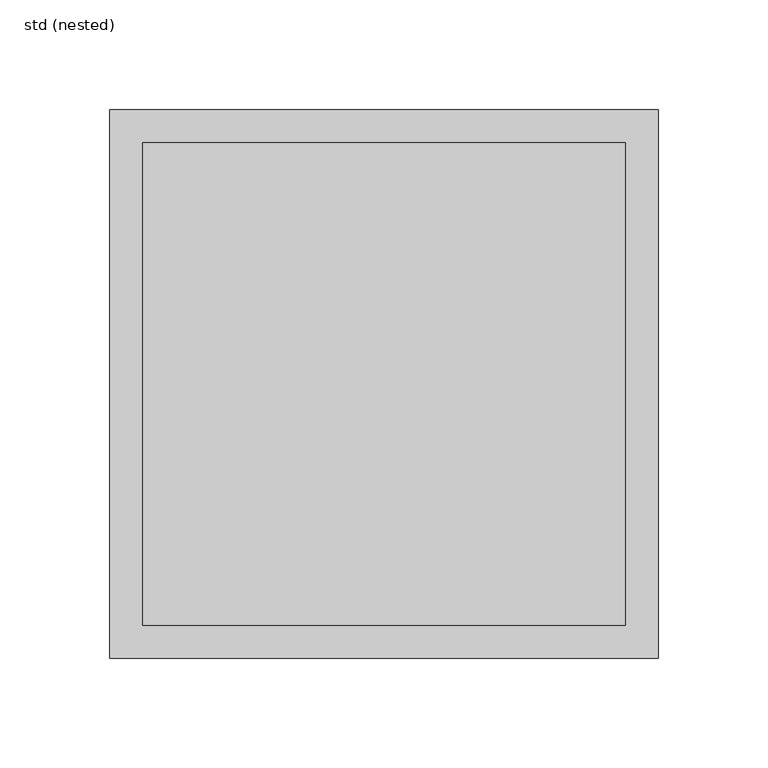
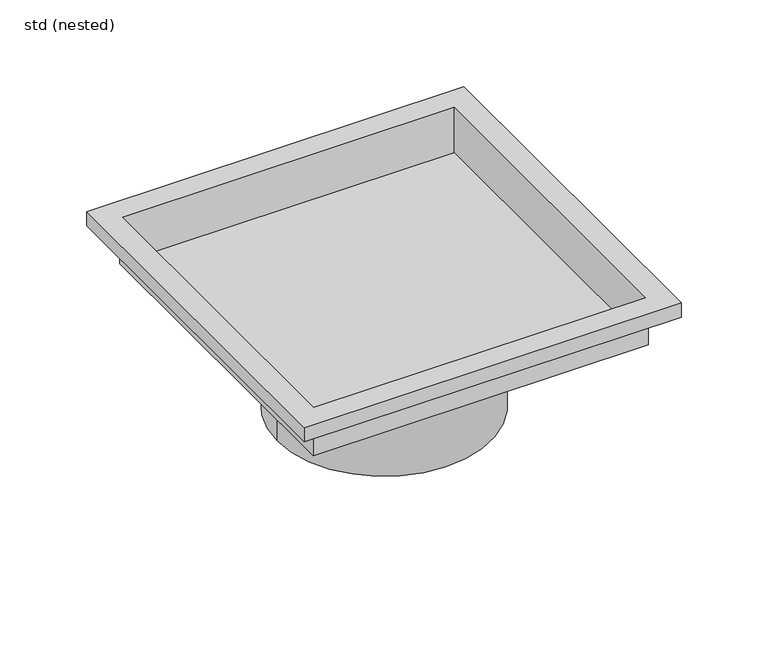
"""IFC4 building model written with IfcOpenShell, lengths in millimetres: sanitary terminal geometry, ZZZ_do not use_PF_ST_UN_telescopic gully top_ACO : std (nested)."""

from ifc_helpers import new_model, si_unit, frame, origin, place, context, project, spatial, polyline, circle_curve, faceted_brep, source, transform, mapped, element, save
from ifc_brep_helpers import plane_surface, cylinder_surface, revolved_surface, advanced_brep


def std_nested_4e44c4c3(model_context):
    return source(origin(), model_context, "Body", "SolidModel", [
        advanced_brep(
        [(-71.0, 0.0, -104.0), (71.0, 0.0, -104.0), (71.0, 0.0, -45.5), (-71.0, 0.0, -45.5), (-78.5, 0.0, -33.0), (78.5, 0.0, -33.0)],
        [
            (0, 1, circle_curve(frame((0.0, 0.0, -104.0), z_axis=(0.0, 0.0, -1.0), x_axis=(1.0, 0.0, 0.0)), 71.0)),
            (1, 0, circle_curve(frame((0.0, 0.0, -104.0), z_axis=(0.0, 0.0, -1.0), x_axis=(1.0, 0.0, 0.0)), 71.0)),
            (1, 2),
            (2, 3, circle_curve(frame((0.0, 0.0, -45.5), z_axis=(0.0, 0.0, -1.0), x_axis=(1.0, 0.0, 0.0)), 71.0)),
            (3, 0),
            (3, 2, circle_curve(frame((0.0, 0.0, -45.5), z_axis=(0.0, 0.0, -1.0), x_axis=(1.0, 0.0, 0.0)), 71.0)),
            (4, 5, circle_curve(frame((0.0, 0.0, -33.0), z_axis=(0.0, 0.0, 1.0), x_axis=(1.0, 0.0, 0.0)), 78.5)),
            (5, 4, circle_curve(frame((0.0, 0.0, -33.0), z_axis=(0.0, 0.0, 1.0), x_axis=(-1.0, 0.0, 0.0)), 78.5)),
            (4, 3),
            (2, 5),
        ],
        [
            plane_surface(frame((71.0, 0.0, -104.0), z_axis=(0.0, 0.0, -1.0), x_axis=(0.0, -1.0, 0.0))),
            cylinder_surface(frame((0.0, 0.0, -104.0), z_axis=(0.0, 0.0, 1.0), x_axis=(1.0, 0.0, 0.0)), 71.0),
            plane_surface(frame((0.0, 0.0, -33.0), z_axis=(0.0, 0.0, 1.0), x_axis=(0.0, -1.0, 0.0))),
            revolved_surface(polyline([(70.99999999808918, 0.0, -45.5), (78.5, 0.0, -33.0)]), (0.0, 0.0, -163.8333333), (0.0, 0.0, 1.0)),
            revolved_surface(polyline([(-70.99999999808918, 0.0, -45.5), (-78.5, 0.0, -33.0)]), (0.0, 0.0, -163.8333333), (0.0, 0.0, 1.0)),
        ],
        [
            (0, [[1, 2]]),
            (1, [[-2, 3, 4, 5]]),
            (1, [[-1, -5, 6, -3]]),
            (2, [[7, 8]]),
            (3, [[-7, 9, -4, 10]]),
            (4, [[-8, -10, -6, -9]]),
        ],
    ),
        faceted_brep([(111.25, 111.25, -33.0), (111.25, -111.25, -33.0), (-111.25, -111.25, -33.0), (-111.25, 111.25, -33.0), (110.0, -110.0, -31.75), (110.0, 110.0, -31.75), (-110.0, 110.0, -31.75), (-110.0, -110.0, -31.75), (-111.25, 111.25, -10.0), (111.25, 111.25, -10.0), (-111.25, -111.25, -10.0), (111.25, -111.25, -10.0), (110.0, -110.0, 0.0), (110.0, 110.0, 0.0), (-110.0, -110.0, 0.0), (-110.0, 110.0, 0.0), (125.0, 125.0, -10.0), (125.0, -125.0, -10.0), (-125.0, -125.0, -10.0), (-125.0, 125.0, -10.0), (125.0, 125.0, 0.0), (-125.0, 125.0, 0.0), (-125.0, -125.0, 0.0), (125.0, -125.0, 0.0)], [[[0, 1, 2, 3]], [[4, 5, 6, 7]], [[0, 3, 8, 9]], [[3, 2, 10, 8]], [[2, 1, 11, 10]], [[1, 0, 9, 11]], [[5, 4, 12, 13]], [[12, 4, 7, 14]], [[14, 7, 6, 15]], [[5, 13, 15, 6]], [[16, 17, 18, 19], [9, 8, 10, 11]], [[20, 21, 22, 23], [13, 12, 14, 15]], [[16, 19, 21, 20]], [[19, 18, 22, 21]], [[18, 17, 23, 22]], [[17, 16, 20, 23]]]),
    ])


if __name__ == "__main__":
    model = new_model("IFC4")
    model_context = context("Model", 3, world=origin())
    ifc_project = project(units=[si_unit("LENGTHUNIT", "METRE", prefix="MILLI")], contexts=[model_context])
    site = spatial("IfcSite", under=ifc_project)
    building = spatial("IfcBuilding", under=site)
    placement = place(None, origin())
    std_nested_shape = std_nested_4e44c4c3(model_context)
    element("IfcSanitaryTerminal", 1, ObjectType="ZZZ_do not use_PF_ST_UN_telescopic gully top_ACO : std (nested)", at=placement, inside=building, context=model_context, shape_type="MappedRepresentation", body=[
        mapped(std_nested_shape, transform((0.0, 0.0, 0.0), x_axis=(1.0, 0.0, 0.0), y_axis=(0.0, 1.0, 0.0), z_axis=(0.0, 0.0, 1.0))),
    ])
    save(model, "model.ifc")
